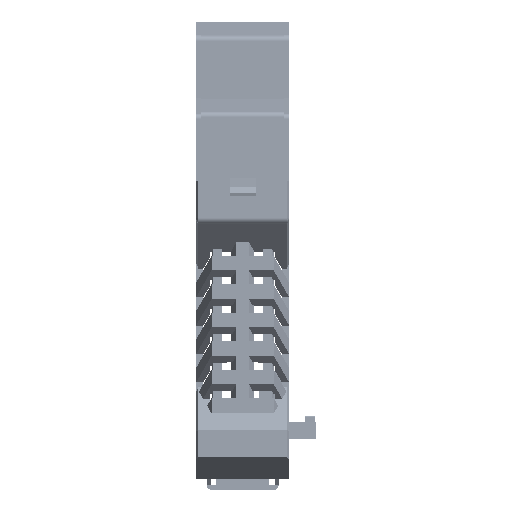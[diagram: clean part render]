
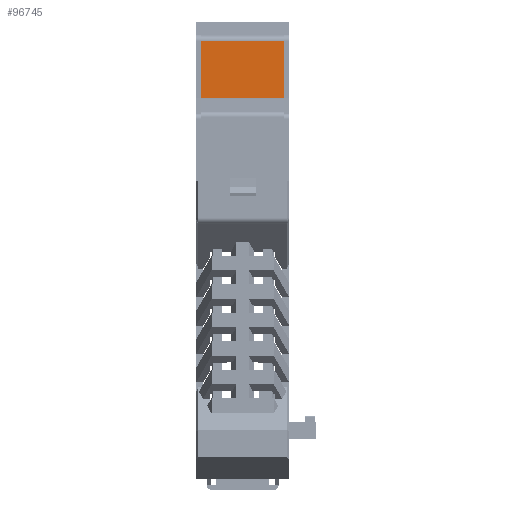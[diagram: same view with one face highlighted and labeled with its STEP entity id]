
A CAD part, front view. The second image highlights one B-rep face of the part: STEP entity #96745.
In plain terms, the highlighted planar face has unit normal (0, -1, 0.001) as drawn and (-1, 0, 0) by its records, which use the part's own axes.
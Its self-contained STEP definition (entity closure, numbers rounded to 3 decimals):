
#96745=ADVANCED_FACE('',(#178961),#178963,.T.);
#178961=FACE_BOUND('',#178962,.T.);
#178962=EDGE_LOOP('',(#245570,#245571,#245572,#245573));
#178963=PLANE('',#178964);
#178964=AXIS2_PLACEMENT_3D('',#178965,#178966,#178967);
#178965=CARTESIAN_POINT('',(-38.8,110.338,32.65));
#178966=DIRECTION('',(-1.,0.,0.));
#178967=DIRECTION('',(0.,-1.,0.));
#245570=ORIENTED_EDGE('',*,*,#280356,.F.);
#245571=ORIENTED_EDGE('',*,*,#280357,.T.);
#245572=ORIENTED_EDGE('',*,*,#280323,.F.);
#245573=ORIENTED_EDGE('',*,*,#280358,.F.);
#280323=EDGE_CURVE('',#332640,#332642,#332643,.T.);
#280356=EDGE_CURVE('',#332701,#332702,#332703,.T.);
#280357=EDGE_CURVE('',#332701,#332642,#332704,.T.);
#280358=EDGE_CURVE('',#332702,#332640,#332705,.T.);
#332640=VERTEX_POINT('',#456923);
#332642=VERTEX_POINT('',#456927);
#332643=LINE('',#456928,#456929);
#332701=VERTEX_POINT('',#457052);
#332702=VERTEX_POINT('',#457053);
#332703=LINE('',#457054,#457055);
#332704=LINE('',#457057,#457058);
#332705=LINE('',#457060,#457061);
#456923=CARTESIAN_POINT('',(-38.8,96.407,32.6));
#456927=CARTESIAN_POINT('',(-38.8,96.407,12.6));
#456928=CARTESIAN_POINT('',(-38.8,96.407,32.6));
#456929=VECTOR('',#456930,1.);
#456930=DIRECTION('',(0.,0.,-1.));
#457052=CARTESIAN_POINT('',(-38.8,110.249,12.6));
#457053=CARTESIAN_POINT('',(-38.8,110.249,32.6));
#457054=CARTESIAN_POINT('',(-38.8,110.249,12.6));
#457055=VECTOR('',#457056,1.);
#457056=DIRECTION('',(0.,0.,1.));
#457057=CARTESIAN_POINT('',(-38.8,110.249,12.6));
#457058=VECTOR('',#457059,1.);
#457059=DIRECTION('',(0.,-1.,0.));
#457060=CARTESIAN_POINT('',(-38.8,110.249,32.6));
#457061=VECTOR('',#457062,1.);
#457062=DIRECTION('',(0.,-1.,0.));
